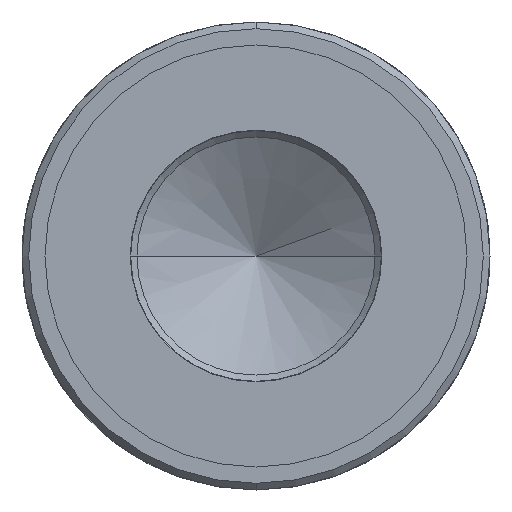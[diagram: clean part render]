
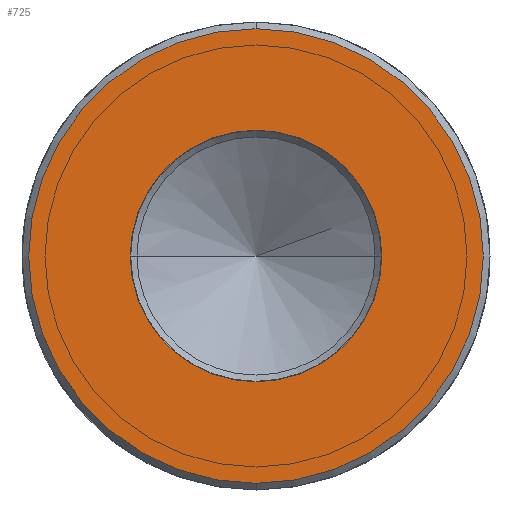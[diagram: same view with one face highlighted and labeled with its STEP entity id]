
A CAD part, front view. The second image highlights one B-rep face of the part: STEP entity #725.
In plain terms, the highlighted planar face has unit normal (0, -1, 0).
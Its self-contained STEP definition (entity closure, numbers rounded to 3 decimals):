
#1=CARTESIAN_POINT('',(0.,-77.8,0.));
#2=DIRECTION('',(0.,1.,0.));
#3=DIRECTION('',(1.,0.,0.));
#4=AXIS2_PLACEMENT_3D('',#1,#2,#3);
#6=CARTESIAN_POINT('',(0.,-77.8,0.));
#7=DIRECTION('',(0.,1.,0.));
#8=DIRECTION('',(-1.,0.,0.));
#9=AXIS2_PLACEMENT_3D('',#6,#7,#8);
#11=CARTESIAN_POINT('',(0.,-77.8,0.));
#12=DIRECTION('',(0.,-1.,0.));
#13=DIRECTION('',(0.,0.,-1.));
#14=AXIS2_PLACEMENT_3D('',#11,#12,#13);
#16=CARTESIAN_POINT('',(0.,-77.8,0.));
#17=DIRECTION('',(0.,-1.,0.));
#18=DIRECTION('',(0.,0.,1.));
#19=AXIS2_PLACEMENT_3D('',#16,#17,#18);
#599=CARTESIAN_POINT('',(15.05,-77.8,0.));
#600=CARTESIAN_POINT('',(-15.05,-77.8,0.));
#601=VERTEX_POINT('',#599);
#602=VERTEX_POINT('',#600);
#607=CARTESIAN_POINT('',(0.,-77.8,-27.2));
#608=CARTESIAN_POINT('',(0.,-77.8,27.2));
#609=VERTEX_POINT('',#607);
#610=VERTEX_POINT('',#608);
#708=CARTESIAN_POINT('',(0.,-77.8,0.));
#709=DIRECTION('',(0.,1.,0.));
#710=DIRECTION('',(0.,0.,-1.));
#711=AXIS2_PLACEMENT_3D('',#708,#709,#710);
#712=PLANE('',#711);
#714=ORIENTED_EDGE('',*,*,#713,.F.);
#716=ORIENTED_EDGE('',*,*,#715,.F.);
#717=EDGE_LOOP('',(#714,#716));
#718=FACE_OUTER_BOUND('',#717,.F.);
#720=ORIENTED_EDGE('',*,*,#719,.F.);
#722=ORIENTED_EDGE('',*,*,#721,.F.);
#723=EDGE_LOOP('',(#720,#722));
#724=FACE_BOUND('',#723,.F.);
#725=ADVANCED_FACE('',(#718,#724),#712,.F.);
#5=CIRCLE('',#4,15.05);
#10=CIRCLE('',#9,15.05);
#15=CIRCLE('',#14,27.2);
#20=CIRCLE('',#19,27.2);
#713=EDGE_CURVE('',#609,#610,#15,.T.);
#715=EDGE_CURVE('',#610,#609,#20,.T.);
#719=EDGE_CURVE('',#601,#602,#5,.T.);
#721=EDGE_CURVE('',#602,#601,#10,.T.);
